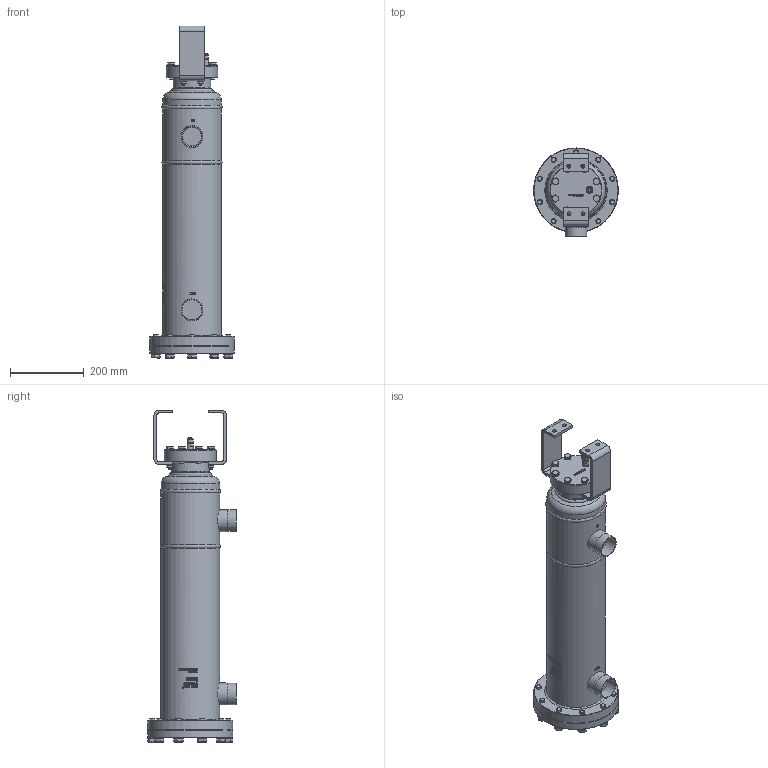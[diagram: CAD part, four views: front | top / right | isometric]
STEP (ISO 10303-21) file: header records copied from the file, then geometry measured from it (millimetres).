
FILE_DESCRIPTION(/* description */ (''),/* implementation_level */ '2;1');
FILE_NAME(/* name */ 'P:\OS\BOS2-54F-CDM\BOS2-54F-CDM.stp',/* time_stamp */ '2017-10-04T07:50:36+02:00',/* author */ ('neufeld'),/* organization */ (''),/* preprocessor_version */ 'ST-DEVELOPER v16.1',/* originating_system */ 'Autodesk Inventor 2016',/* authorisation */ '');
FILE_SCHEMA (('AUTOMOTIVE_DESIGN { 1 0 10303 214 3 1 1 }'));
Products named in the file (2): BOS2-54F-CDM; BOS2-54F-CDM_1
Assembly tree (1 placements, depth 2):
  BOS2-54F-CDM_1
    BOS2-54F-CDM
Bounding box: 230 x 240.7 x 900.25 mm (x, y, z)
Volume: 16320036.5 mm3; surface area: 655835.8 mm2
Topology: 1 solids, 1 shells, 1876 faces, 4914 edges, 3185 vertices
Faces by surface type: plane 974, bspline 446, cylinder 281, cone 167, torus 7, sphere 1
Full cylindrical faces by diameter (mm): 7.2 x1, 8 x8, 8.376 x4, 8.5 x4, 9.188 x4, 10 x12, 10.5 x8, 11 x4, 12.9 x1, 12.917 x10, 13.5 x1, 14 x20, 14.2 x10, 15.4 x4, 15.6 x4, 15.7 x1, 16 x1, 20.1 x10, 54.3 x2, 59 x2, 59.5 x2, 102 x1, 105 x1, 140 x1, 159 x3, 230 x2
Entity records: 65048 total; most frequent: CARTESIAN_POINT 22692, ORIENTED_EDGE 9276, DIRECTION 7750, EDGE_CURVE 4628, VERTEX_POINT 3088, AXIS2_PLACEMENT_3D 2860, EDGE_LOOP 2286, LINE 2030
